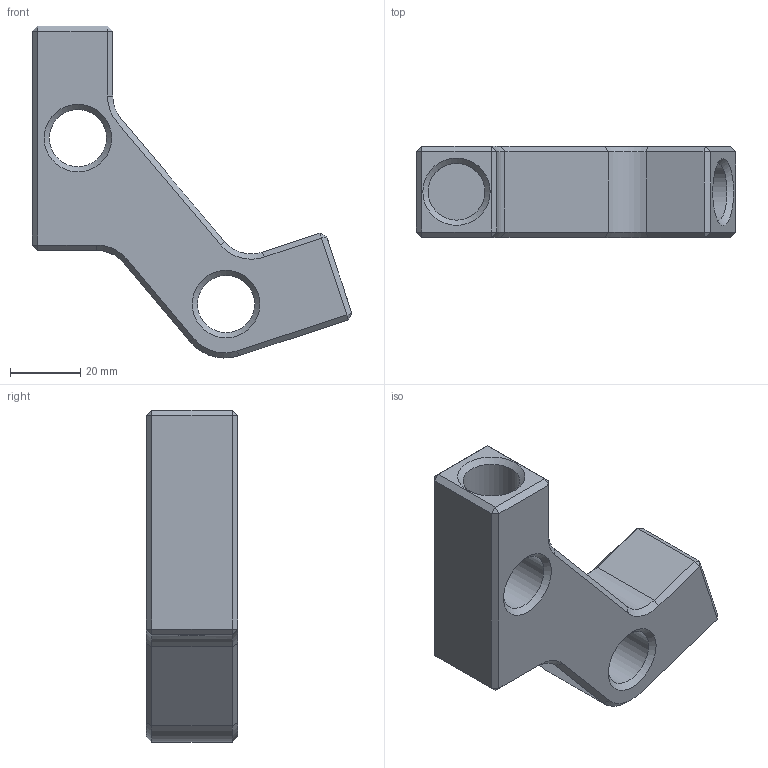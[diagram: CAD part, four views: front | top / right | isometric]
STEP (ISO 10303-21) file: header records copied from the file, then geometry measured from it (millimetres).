
FILE_DESCRIPTION(/* description */ (''),/* implementation_level */ '2;1');
FILE_NAME(/* name */ 'PART-B.step',/* time_stamp */ '2023-04-27T13:20:28+02:00',/* author */ (''),/* organization */ (''),/* preprocessor_version */ 'ST-DEVELOPER v19.2',/* originating_system */ 'Autodesk Translation Framework v11.17.0.187',/* authorisation */ '');
FILE_SCHEMA (('AUTOMOTIVE_DESIGN { 1 0 10303 214 3 1 1 }'));
Length unit declared in the file: millimetre
Products named in the file (1): ZapateroV2
Bounding box: 91.11 x 26 x 94.71 mm (x, y, z)
Volume: 70379.3 mm3; surface area: 19590.7 mm2
Topology: 1 solids, 1 shells, 74 faces, 156 edges, 86 vertices
Faces by surface type: plane 47, cone 15, cylinder 9, bspline 3
Full cylindrical faces by diameter (mm): 16.2 x3, 16.3 x2
Entity records: 2078 total; most frequent: CARTESIAN_POINT 410, DIRECTION 328, ORIENTED_EDGE 312, EDGE_CURVE 156, LINE 116, VECTOR 116, AXIS2_PLACEMENT_3D 106, VERTEX_POINT 86
